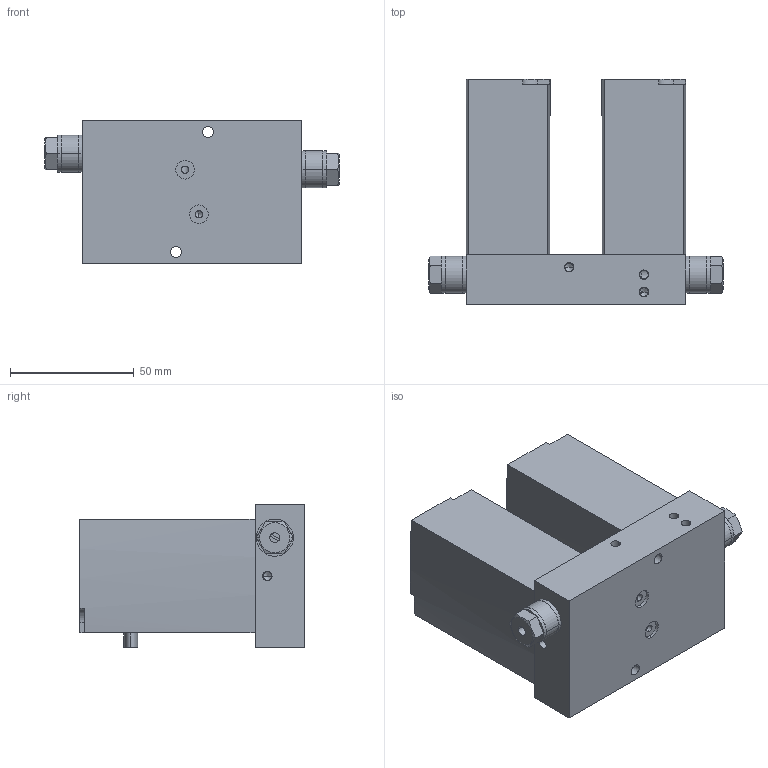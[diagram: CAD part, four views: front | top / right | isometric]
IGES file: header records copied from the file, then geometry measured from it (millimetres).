
Start section: C
Global section: file name: P3 FAIL-FREE FAIL-DOWN SOLENOID BLOCK.igs; native system:  By UGS Corp.; preprocessor: XPlus GENERIC/IGES 3.0; author: Author; organization: Title; date: 20110426.161218; units: millimetre
Bounding box: 119 x 91 x 58 mm (x, y, z)
Volume: 315599.2 mm3; surface area: 57561.1 mm2
Topology: 5 solids, 5 shells, 273 faces, 655 edges, 402 vertices
Faces by surface type: cylinder 133, plane 104, cone 32, extrusion 4
